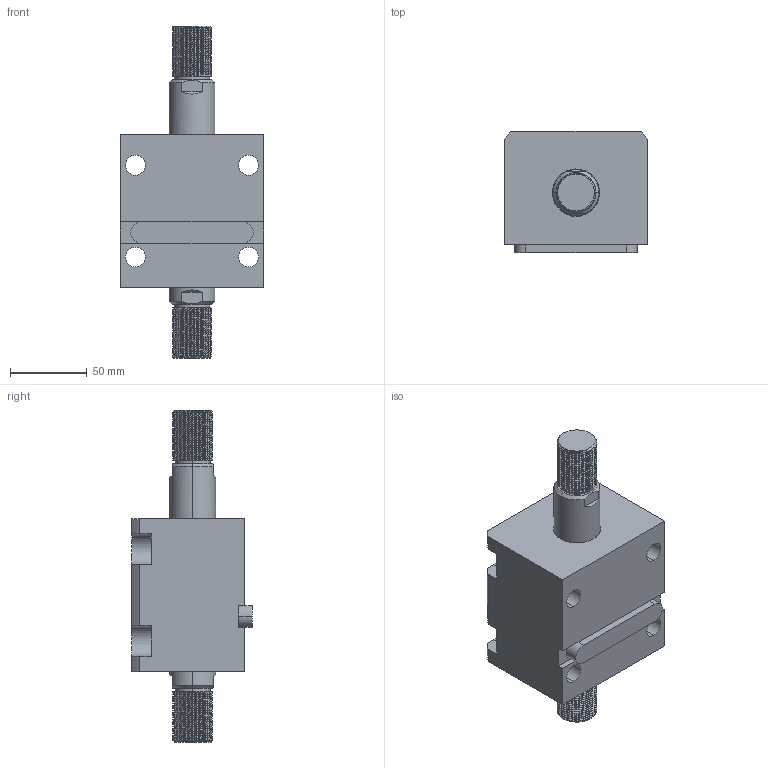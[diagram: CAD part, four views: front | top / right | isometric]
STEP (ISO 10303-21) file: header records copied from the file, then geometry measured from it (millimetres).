
FILE_DESCRIPTION (( 'STEP AP203' ), '1' );
FILE_NAME ('CHTB-LW50-25W.STEP', '2018-05-18T02:34:14', ( '' ), ( '' ), 'SwSTEP 2.0', 'SolidWorks 2015', '' );
FILE_SCHEMA (( 'CONFIG_CONTROL_DESIGN' ));
Length unit declared in the file: millimetre
Products named in the file (4): CHTB-LW50-25W; CHTM-SDMA50QG; 掛极LW50-25W; 活塞杆LW50-25W
Assembly tree (3 placements, depth 2):
  CHTB-LW50-25W
    掛极LW50-25W
    活塞杆LW50-25W
    CHTM-SDMA50QG
Bounding box: 94 x 79 x 217 mm (x, y, z)
Volume: 677109.5 mm3; surface area: 117024.5 mm2
Topology: 3 solids, 3 shells, 310 faces, 854 edges, 568 vertices
Faces by surface type: cylinder 186, plane 63, cone 27, bspline 18, torus 16
Entity records: 19510 total; most frequent: CARTESIAN_POINT 11940, ORIENTED_EDGE 1700, DIRECTION 1310, EDGE_CURVE 850, VERTEX_POINT 568, AXIS2_PLACEMENT_3D 503, EDGE_LOOP 348, ADVANCED_FACE 310
